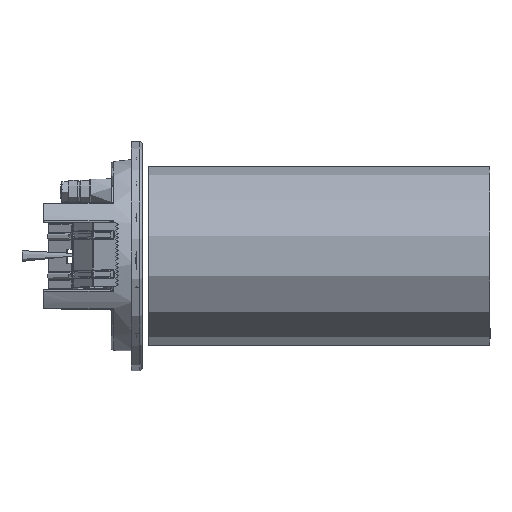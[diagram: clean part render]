
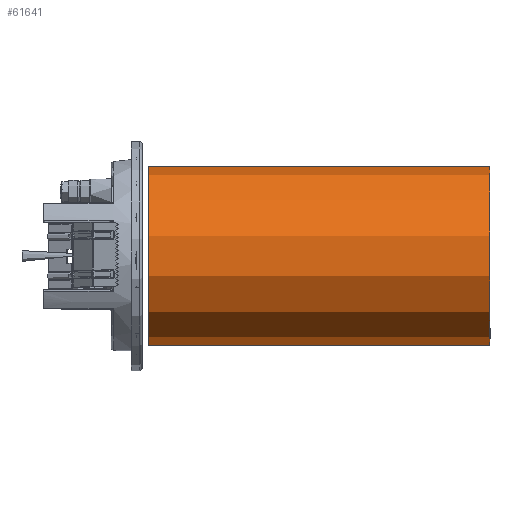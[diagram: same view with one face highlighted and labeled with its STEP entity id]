
A CAD part, left-side view. The second image highlights one B-rep face of the part: STEP entity #61641.
In plain terms, the highlighted cylindrical face has radius 25 mm (diameter 50 mm), a full revolution.
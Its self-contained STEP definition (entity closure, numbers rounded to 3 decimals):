
#5108=FACE_OUTER_BOUND('',#8513,.T.);
#8513=EDGE_LOOP('',(#41687,#41688,#41689,#41690,#41691,#41692));
#11994=LINE('',#101492,#17388);
#17388=VECTOR('',#71682,25.);
#22704=CIRCLE('',#65263,25.);
#22705=CIRCLE('',#65264,25.);
#22741=CIRCLE('',#65324,25.);
#22742=CIRCLE('',#65325,25.);
#25156=VERTEX_POINT('',#101379);
#25157=VERTEX_POINT('',#101380);
#25183=VERTEX_POINT('',#101479);
#25184=VERTEX_POINT('',#101480);
#31346=EDGE_CURVE('',#25156,#25157,#22704,.T.);
#31347=EDGE_CURVE('',#25157,#25156,#22705,.T.);
#31395=EDGE_CURVE('',#25183,#25184,#22741,.T.);
#31396=EDGE_CURVE('',#25184,#25183,#22742,.T.);
#31400=EDGE_CURVE('',#25184,#25157,#11994,.T.);
#41687=ORIENTED_EDGE('',*,*,#31395,.F.);
#41688=ORIENTED_EDGE('',*,*,#31396,.F.);
#41689=ORIENTED_EDGE('',*,*,#31400,.T.);
#41690=ORIENTED_EDGE('',*,*,#31347,.T.);
#41691=ORIENTED_EDGE('',*,*,#31346,.T.);
#41692=ORIENTED_EDGE('',*,*,#31400,.F.);
#57270=CYLINDRICAL_SURFACE('',#65331,25.);
#61641=ADVANCED_FACE('',(#5108),#57270,.T.);
#65263=AXIS2_PLACEMENT_3D('',#101381,#71531,#71532);
#65264=AXIS2_PLACEMENT_3D('',#101382,#71533,#71534);
#65324=AXIS2_PLACEMENT_3D('',#101481,#71665,#71666);
#65325=AXIS2_PLACEMENT_3D('',#101482,#71667,#71668);
#65331=AXIS2_PLACEMENT_3D('',#101491,#71680,#71681);
#71531=DIRECTION('center_axis',(0.,1.,0.));
#71532=DIRECTION('ref_axis',(1.,0.,0.));
#71533=DIRECTION('center_axis',(0.,1.,0.));
#71534=DIRECTION('ref_axis',(1.,0.,0.));
#71665=DIRECTION('center_axis',(0.,1.,0.));
#71666=DIRECTION('ref_axis',(1.,0.,0.));
#71667=DIRECTION('center_axis',(0.,1.,0.));
#71668=DIRECTION('ref_axis',(1.,0.,0.));
#71680=DIRECTION('center_axis',(0.,1.,0.));
#71681=DIRECTION('ref_axis',(0.,0.,
1.));
#71682=DIRECTION('',(0.,-1.,0.));
#101379=CARTESIAN_POINT('',(0.,-106.8,25.));
#101380=CARTESIAN_POINT('',(0.,-106.8,-25.));
#101381=CARTESIAN_POINT('Origin',(0.,-106.8,0.));
#101382=CARTESIAN_POINT('Origin',(0.,-106.8,0.));
#101479=CARTESIAN_POINT('',(0.,-11.3,25.));
#101480=CARTESIAN_POINT('',(0.,-11.3,-25.));
#101481=CARTESIAN_POINT('Origin',(0.,-11.3,
0.));
#101482=CARTESIAN_POINT('Origin',(0.,-11.3,
0.));
#101491=CARTESIAN_POINT('Origin',(0.,-59.05,
0.));
#101492=CARTESIAN_POINT('',(0.,-59.05,-25.));
